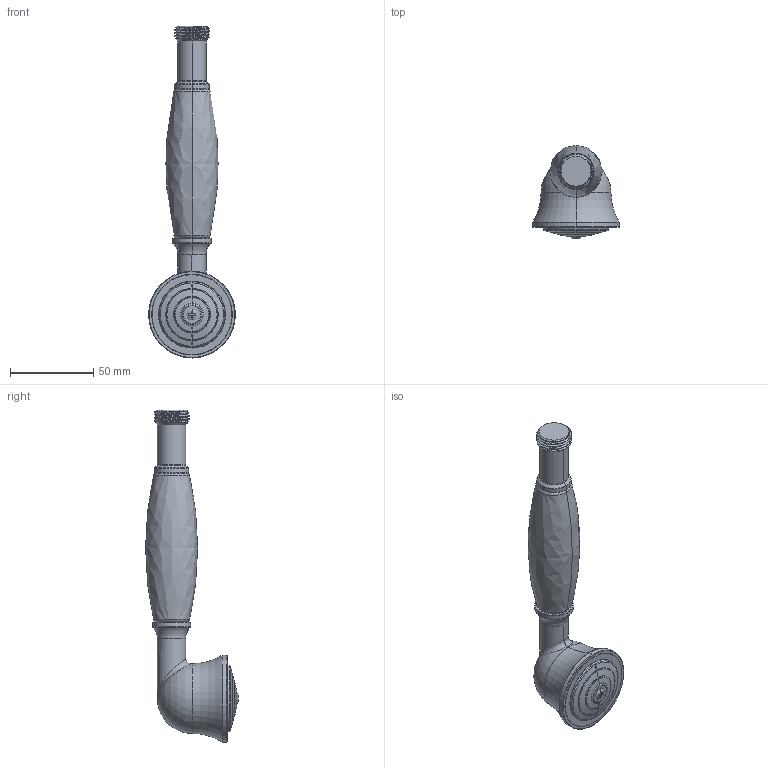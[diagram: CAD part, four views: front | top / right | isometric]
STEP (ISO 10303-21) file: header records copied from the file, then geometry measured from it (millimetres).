
FILE_DESCRIPTION((''),'2;1');
FILE_NAME('37206--00_SW0001','2026-10-07T09:58:26',('simi1'),(''),'CREO PARAMETRIC BY PTC INC, 2022244','CREO PARAMETRIC BY PTC INC, 2022244','');
FILE_SCHEMA(('CONFIG_CONTROL_DESIGN'));
Length unit declared in the file: millimetre
Products named in the file (1): 37206--00_SW0001
Bounding box: 52.2 x 55.84 x 199.65 mm (x, y, z)
Surface area: 24286.2 mm2 (no closed solid volume)
Topology: 0 solids, 7 shells, 106 faces, 260 edges, 153 vertices
Faces by surface type: torus 38, cylinder 20, cone 20, plane 14, bspline 10, sphere 4
Entity records: 5349 total; most frequent: CARTESIAN_POINT 2880, DIRECTION 552, ORIENTED_EDGE 469, EDGE_CURVE 258, AXIS2_PLACEMENT_3D 243, VERTEX_POINT 153, CIRCLE 147, EDGE_LOOP 106
